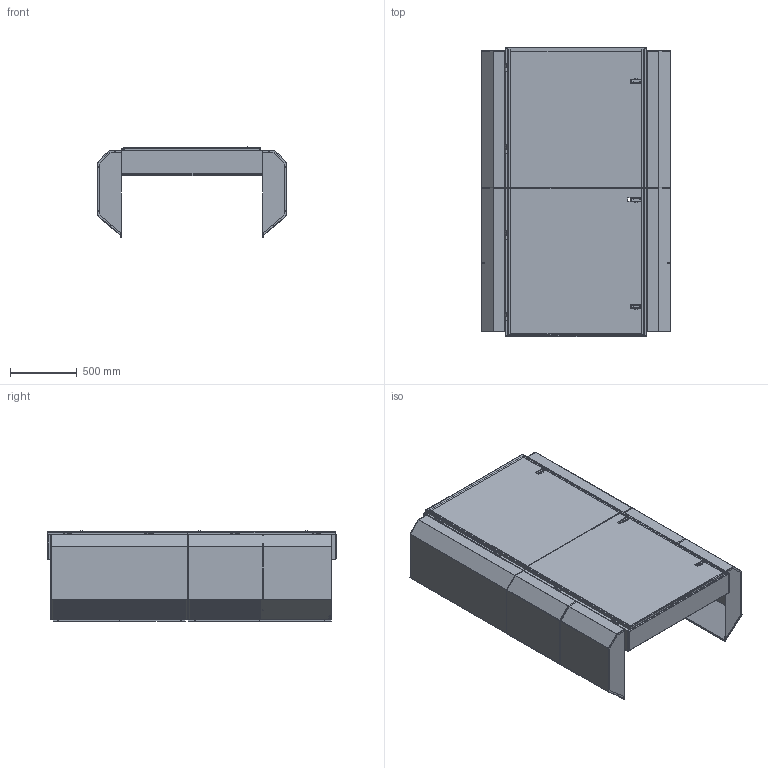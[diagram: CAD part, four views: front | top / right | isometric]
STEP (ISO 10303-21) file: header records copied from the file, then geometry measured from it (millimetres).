
FILE_DESCRIPTION (( 'STEP AP214' ), '1' );
FILE_NAME ('QRASP3.STEP', '2016-07-28T13:37:22', ( 'BMC' ), ( 'Bard Manufacturing Co., Inc.' ), 'SwSTEP 2.0', 'SolidWorks 2016', '' );
FILE_SCHEMA (( 'AUTOMOTIVE_DESIGN' ));
Length unit declared in the file: inch
Products named in the file (32): 1171-048e; 1171-048d; 121Y445; 1171-048c; 100-579; 1171-048b; 136-585; 1171-048a; 121X445; 1012-150; 100-580; 5400-005 female hinge; 100-581; 5021-1441_uncompressed; 553-472; 152-471; 5021-1442_uncompressed; 126-382; 152-472; 106-238; 500-575; 100-577; 100-575; 100-576; 500-574; 5400-005, male hinge; QRASP3; 100-574; 553-471; 1171-048, non locking door latch; NUT; 1171-048f
Assembly tree (50 placements, depth 4):
  QRASP3
    100-576
    100-577
    106-238
    126-382
    553-471
      152-471
      5021-1441_uncompressed
      5400-005 female hinge  x2
      1012-150  x4
      1171-048, non locking door latch
        1171-048a
        1171-048b
        1171-048c
        1171-048d
        1171-048e
        1171-048f
        NUT
    500-574
      100-574
      5400-005, male hinge  x2
    500-575
      100-575
      5400-005, male hinge  x2
    553-472
      152-472
      5400-005 female hinge  x2
      1171-048, non locking door latch  x2
        1171-048a
        1171-048b
        1171-048c
        1171-048d
        1171-048e
        1171-048f
        NUT
      1012-150  x4
      5021-1442_uncompressed
    100-581
    100-580  x2
    121X445
    136-585  x4
    100-579
    121Y445
Bounding box: 1418.42 x 2171.71 x 676.55 mm (x, y, z)
Surface area: 20024646.5 mm2 (no closed solid volume)
Topology: 0 solids, 57 shells, 6836 faces, 17811 edges, 11129 vertices
Faces by surface type: plane 4123, cone 1786, cylinder 748, bspline 162, sphere 11, torus 6
Entity records: 130830 total; most frequent: CARTESIAN_POINT 28732, ORIENTED_EDGE 21142, DIRECTION 19458, EDGE_CURVE 10571, LINE 8760, VECTOR 8760, VERTEX_POINT 6707, AXIS2_PLACEMENT_3D 5349
